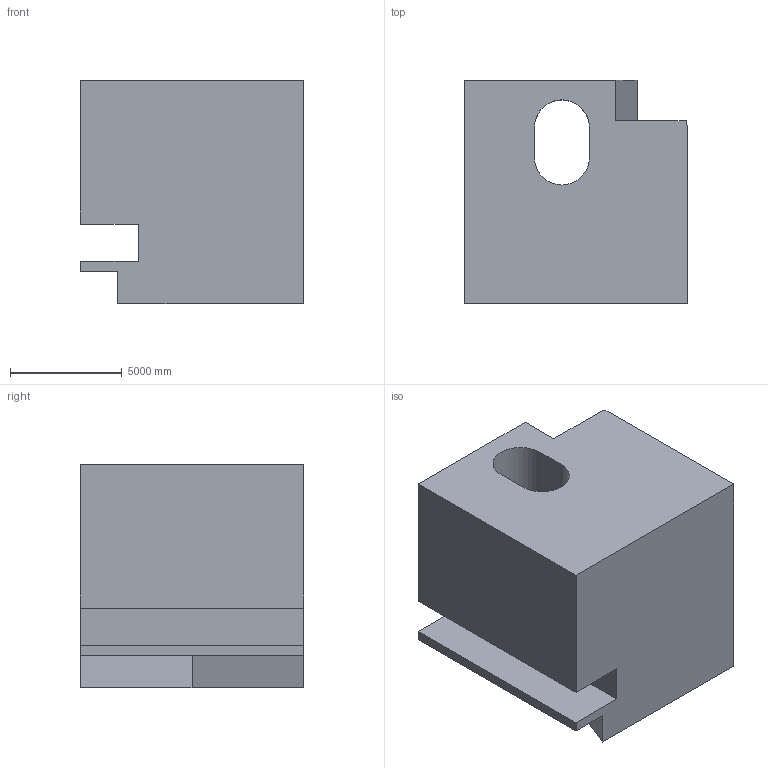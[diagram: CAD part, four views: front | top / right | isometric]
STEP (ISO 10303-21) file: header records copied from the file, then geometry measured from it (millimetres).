
FILE_DESCRIPTION (( 'STEP AP203' ), '1' );
FILE_NAME ('493.STEP', '2022-07-29T11:30:13', ( 'user' ), ( '' ), 'SwSTEP 2.0', 'SolidWorks 2021', '' );
FILE_SCHEMA (( 'CONFIG_CONTROL_DESIGN' ));
Length unit declared in the file: centimetre
Products named in the file (1): 493
Bounding box: 10000 x 10000 x 10000 mm (x, y, z)
Volume: 787658702108 mm3; surface area: 715793848.4 mm2
Topology: 1 solids, 1 shells, 22 faces, 60 edges, 40 vertices
Faces by surface type: plane 18, cylinder 4
Entity records: 771 total; most frequent: CARTESIAN_POINT 129, ORIENTED_EDGE 120, DIRECTION 110, EDGE_CURVE 60, VECTOR 52, LINE 52, VERTEX_POINT 40, AXIS2_PLACEMENT_3D 29
